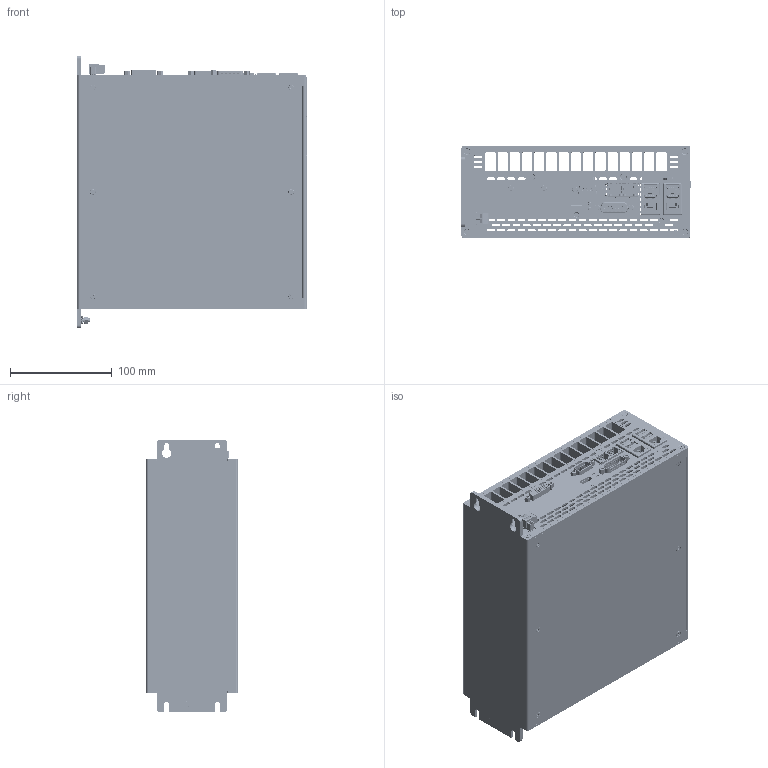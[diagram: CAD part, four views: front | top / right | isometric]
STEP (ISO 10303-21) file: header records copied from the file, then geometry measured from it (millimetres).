
FILE_DESCRIPTION (( 'STEP AP214' ), '1' );
FILE_NAME ('C6P34-BM_D1_DVI_RS232.STEP', '2019-09-20T14:03:48', ( '' ), ( '' ), 'SwSTEP 2.0', 'SolidWorks 2018', '' );
FILE_SCHEMA (( 'AUTOMOTIVE_DESIGN' ));
Length unit declared in the file: millimetre
Products named in the file (47): 21509026; 21502089; 56636706; 21409042; 62920011; 66811014; 21410046; 62920005; 21410056; 21410052; 52500002; 56636682; 62920001; 23330039; 7397_212; 7359_051; 61820002; 7397_279_Depopolata; 52536136; 66011039; 62120039; 54336015; 64312003; 14300036; 54336010; 54236002_Default<A macchina>; 7397_212_Depopolata; C6P34-BM_D1_DVI_RS232; 57136005; 21509048; 52912002; 21505014; 14300030; piazzuola_de800_di370; 21402062; 53936027; foot2579_700000; 21614000; 66820000; 7397_279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
Assembly tree (109 placements, depth 3):
  C6P34-BM_D1_DVI_RS232
    52500002
      52536136
      52912002
      66320015  x4
    7359_051_Depopolata
      7359_051
      23330039  x4
      21410052
      21512011
      21410046  x2
      21410056
      21409042
      21405029  x2
      20100011
      21509026
      piazzuola_de800_di370  x8
      14300036  x7
    54236002_Default<A macchina>
    7397_279_Depopolata
      7397_279
      21502089
      piazzuola_de800_di370  x5
    21402062
    54336015
      54336010
      57136005
      62990009  x4
      64312003  x4
      62120039  x2
      57136006
    56636682
    56636706
    53936027  x2
    21614000  x6
    66011039  x12
    66820000  x2
    66811014  x12
    62920001
    62920005
    62920011
    61820002
    7397_212_Depopolata
      7397_212
      14300030
      21505014
      foot2579_700000
      21509048
      piazzuola_de800_di370
Bounding box: 225.01 x 90 x 268 mm (x, y, z)
Volume: 516308.7 mm3; surface area: 935407.3 mm2
Topology: 190 solids, 301 shells, 25069 faces, 68987 edges, 44672 vertices
Faces by surface type: plane 16010, cylinder 7669, bspline 632, cone 601, torus 142, sphere 15
Entity records: 752873 total; most frequent: CARTESIAN_POINT 151549, ORIENTED_EDGE 114398, DIRECTION 106570, EDGE_CURVE 57358, VECTOR 39882, LINE 39882, VERTEX_POINT 37139, AXIS2_PLACEMENT_3D 33344
